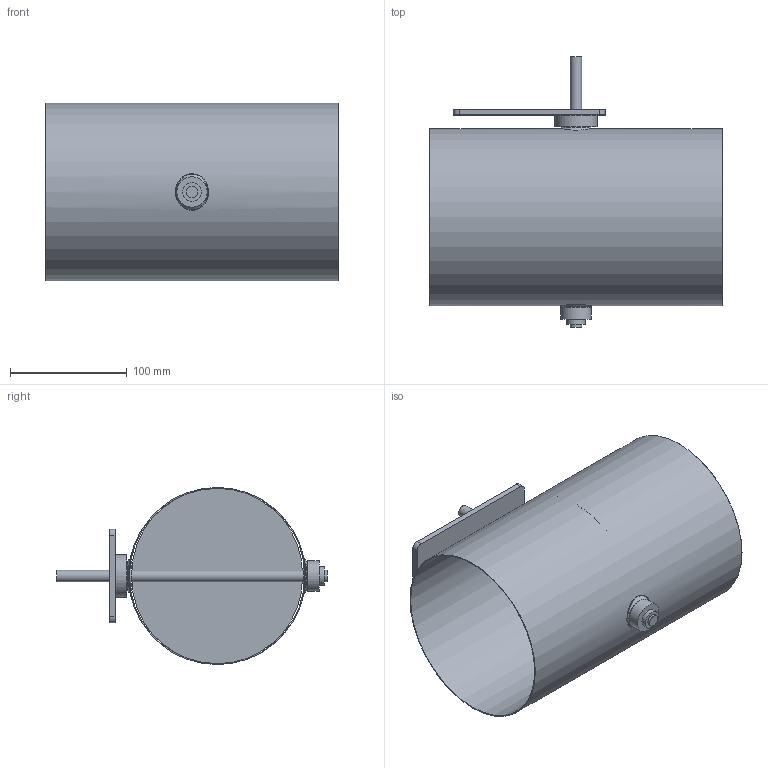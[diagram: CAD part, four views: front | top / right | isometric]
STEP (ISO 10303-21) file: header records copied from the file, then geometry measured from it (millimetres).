
FILE_DESCRIPTION(/* description */ (''),/* implementation_level */ '2;1');
FILE_NAME(/* name */ 'AA124-80B__150_L250_Belimo_Typ_LM.stp',/* time_stamp */ '2017-12-06T12:59:15+01:00',/* author */ (''),/* organization */ (''),/* preprocessor_version */ 'ST-DEVELOPER v11',/* originating_system */ 'SIEMENS UGS NX 6.0',/* authorisation */ '');
FILE_SCHEMA (('CONFIG_CONTROL_DESIGN'));
Length unit declared in the file: millimetre
Products named in the file (1): gars18E2j1yp
Bounding box: 250 x 231 x 151.6 mm (x, y, z)
Volume: 198799.6 mm3; surface area: 312255 mm2
Topology: 8 solids, 8 shells, 66 faces, 142 edges, 98 vertices
Faces by surface type: plane 28, cylinder 26, cone 4, bspline 4, torus 4
Full cylindrical faces by diameter (mm): 4.1 x4, 10 x3, 15 x3, 15.85 x2, 16 x2, 24 x2, 26 x1, 36 x1, 150 x1, 151.6 x1
Entity records: 2188 total; most frequent: CARTESIAN_POINT 835, DIRECTION 270, ORIENTED_EDGE 184, EDGE_LOOP 128, AXIS2_PLACEMENT_3D 123, FACE_BOUND 114, EDGE_CURVE 92, VERTEX_POINT 80
